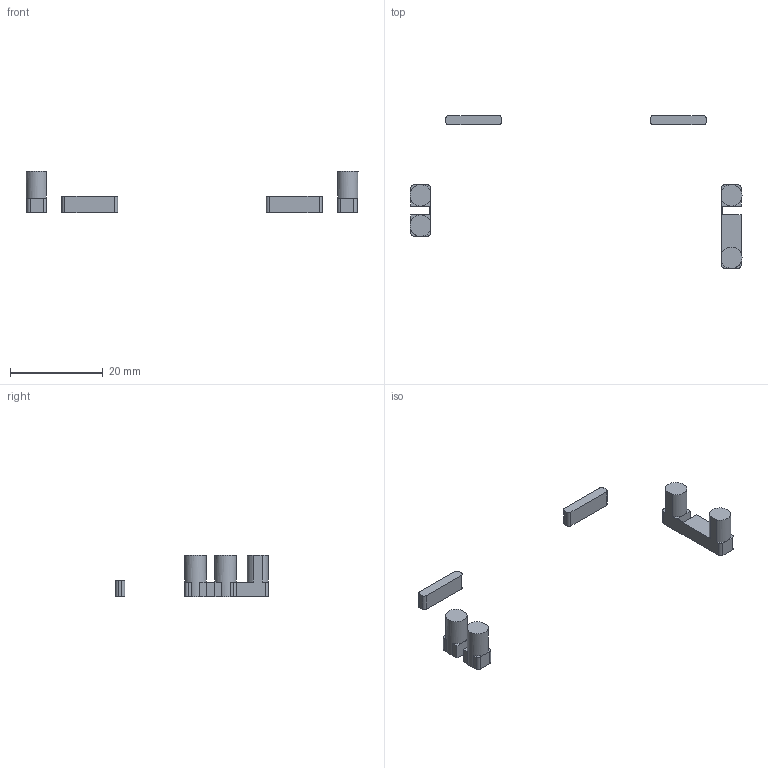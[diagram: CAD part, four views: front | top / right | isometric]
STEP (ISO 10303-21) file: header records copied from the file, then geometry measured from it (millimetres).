
FILE_DESCRIPTION(('Open CASCADE Model'),'2;1');
FILE_NAME('Open CASCADE Shape Model','2026-09-15T13:33:53',('Author'),( 'Open CASCADE'),'Open CASCADE STEP processor 7.7','Open CASCADE 7.7' ,'Unknown');
FILE_SCHEMA(('AUTOMOTIVE_DESIGN { 1 0 10303 214 1 1 1 1 }'));
Length unit declared in the file: millimetre
Products named in the file (5): Open CASCADE STEP translator 7.7 2; Open CASCADE STEP translator 7.7 2.1; Open CASCADE STEP translator 7.7 2.2; Open CASCADE STEP translator 7.7 2.3; Open CASCADE STEP translator 7.7 2.4
Assembly tree (4 placements, depth 2):
  Open CASCADE STEP translator 7.7 2
    Open CASCADE STEP translator 7.7 2.1
    Open CASCADE STEP translator 7.7 2.2
    Open CASCADE STEP translator 7.7 2.3
    Open CASCADE STEP translator 7.7 2.4
Bounding box: 71.4 x 32.88 x 9 mm (x, y, z)
Volume: 892.3 mm3; surface area: 1120.9 mm2
Topology: 4 solids, 4 shells, 71 faces, 182 edges, 119 vertices
Faces by surface type: plane 51, cylinder 20
Entity records: 4590 total; most frequent: CARTESIAN_POINT 946, DIRECTION 658, ORIENTED_EDGE 364, PCURVE 364, DEFINITIONAL_REPRESENTATION 364, LINE 363, VECTOR 363, EDGE_CURVE 182
